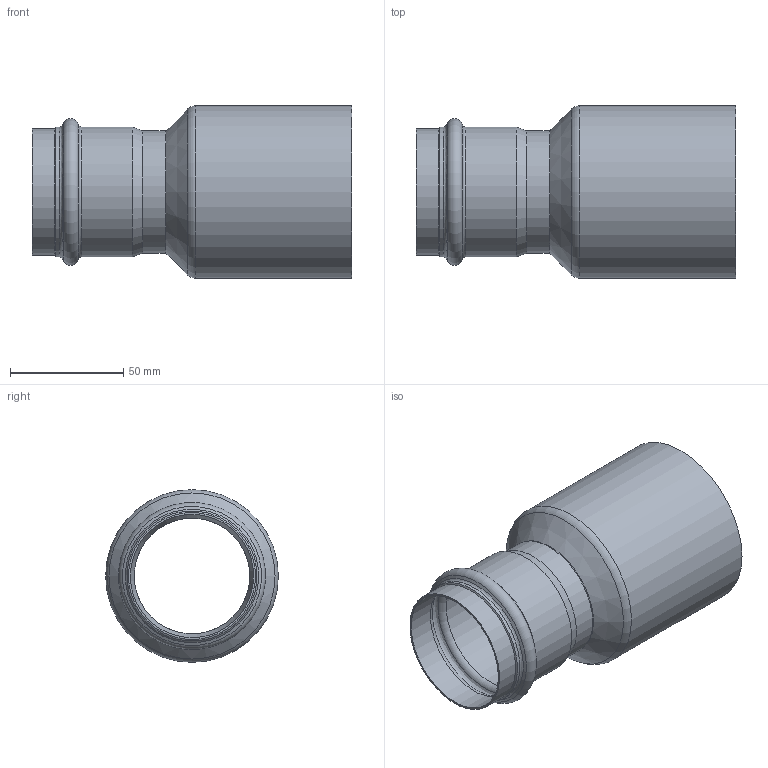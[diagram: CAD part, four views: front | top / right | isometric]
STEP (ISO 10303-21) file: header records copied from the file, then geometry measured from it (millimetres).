
FILE_DESCRIPTION((''),'2;1');
FILE_NAME('G:\Technics\CAD\Bauteile\076\692437654(3).stp','2008-03-10T13:40:59',('herberg'),(''),'Autodesk Inventor 2008','Autodesk Inventor 2008','');
FILE_SCHEMA(('AUTOMOTIVE_DESIGN { 1 0 10303 214 1 1 1 1 }'));
Length unit declared in the file: millimetre
Products named in the file (3): 692437654(3); 692437654red; 6924354HM(1)
Assembly tree (2 placements, depth 2):
  692437654(3)
    692437654red
    6924354HM(1)
Bounding box: 141 x 76.1 x 76.1 mm (x, y, z)
Volume: 54377.2 mm3; surface area: 62374.5 mm2
Topology: 2 solids, 2 shells, 29 faces, 54 edges, 29 vertices
Faces by surface type: cylinder 10, cone 7, torus 4, bspline 4, plane 4
Full cylindrical faces by diameter (mm): 51 x2, 54 x1, 54.35 x2, 55.95 x1, 57.35 x2, 72.1 x1, 76.1 x1
Entity records: 870 total; most frequent: CARTESIAN_POINT 304, DIRECTION 118, AXIS2_PLACEMENT_3D 59, ORIENTED_EDGE 58, EDGE_LOOP 58, VERTEX_POINT 29, CIRCLE 29, EDGE_CURVE 29
